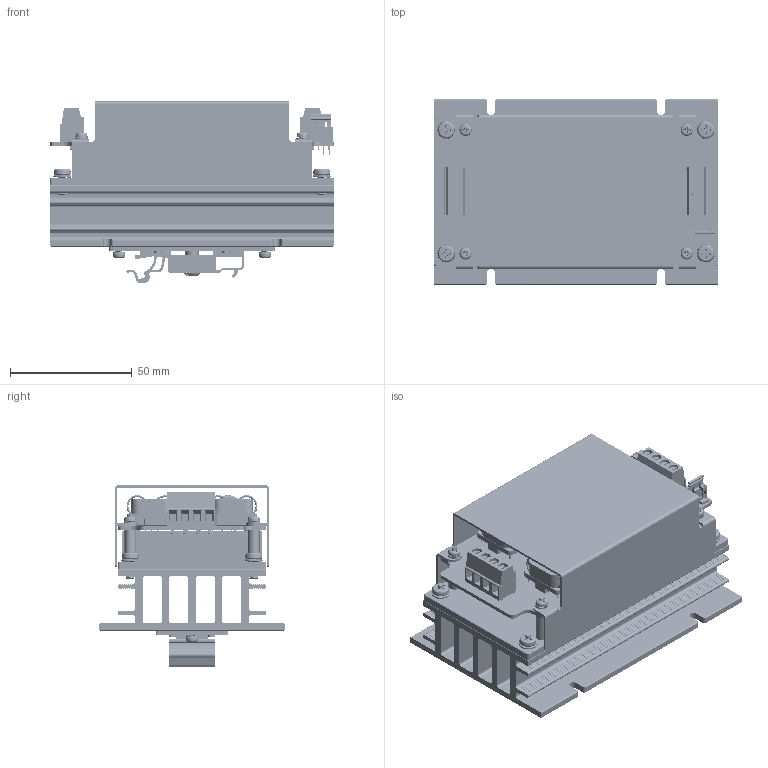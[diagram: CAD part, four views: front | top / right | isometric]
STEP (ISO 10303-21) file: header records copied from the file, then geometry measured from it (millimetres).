
FILE_DESCRIPTION (( 'STEP AP203' ), '1' );
FILE_NAME ('CQB50W12 CMFD+HD 2025.01.02.STEP', '2025-01-03T09:27:58', ( '' ), ( '' ), 'SwSTEP 2.0', 'SolidWorks 2020', '' );
FILE_SCHEMA (( 'CONFIG_CONTROL_DESIGN' ));
Length unit declared in the file: millimetre
Products named in the file (1): CQB50W12 CMFD+HD 2025.01.02
Bounding box: 116.84 x 76.2 x 74.5 mm (x, y, z)
Volume: 187148.9 mm3; surface area: 131117.7 mm2
Topology: 23 solids, 31 shells, 3371 faces, 10458 edges, 6685 vertices
Faces by surface type: plane 1910, cylinder 719, bspline 470, cone 157, torus 77, sphere 38
Full cylindrical faces by diameter (mm): 0.5 x16, 0.942 x8, 1.02 x6, 1.2 x6, 1.5 x2, 2.2 x2, 2.5 x28, 2.8 x5, 3 x5, 3.2 x11, 3.25 x1, 3.5 x4, 3.8 x8, 3.9 x20, 4 x11, 4.3 x2, 4.45 x4, 4.5 x8, 4.7 x8, 5 x3, 5.4 x2, 8.635 x2, 8.762 x1, 11.775 x2, 12.56 x2
Entity records: 397851 total; most frequent: CARTESIAN_POINT 314069, ORIENTED_EDGE 19262, DIRECTION 14460, EDGE_CURVE 9631, VERTEX_POINT 6434, VECTOR 5570, LINE 5570, AXIS2_PLACEMENT_3D 4445
